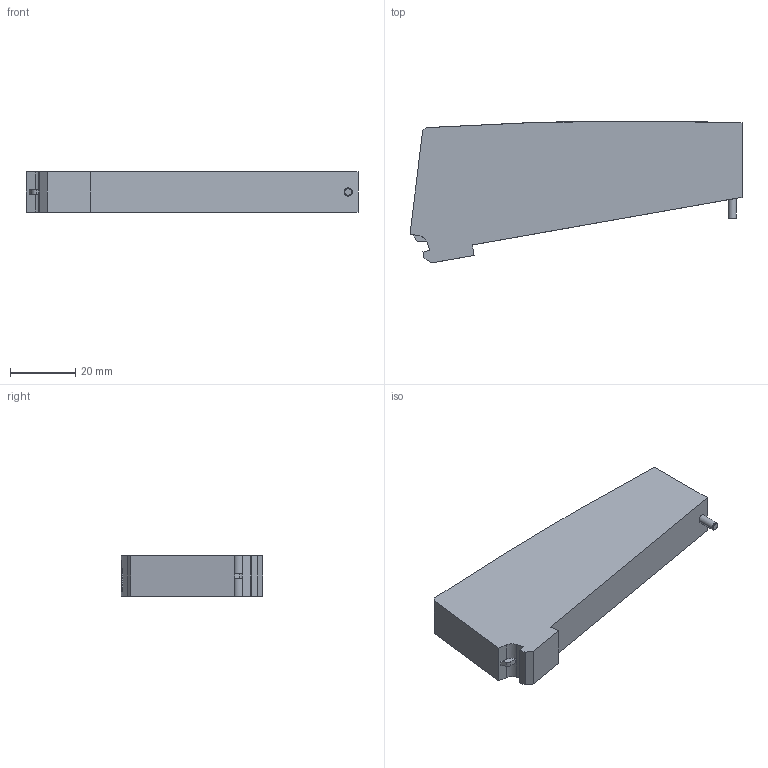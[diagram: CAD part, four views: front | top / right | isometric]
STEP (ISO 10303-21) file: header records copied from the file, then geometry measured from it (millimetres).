
FILE_DESCRIPTION((''),'2;1');
FILE_NAME('R422103006','2015-08-03T',('UAH1HC'),(''),'PRO/ENGINEER BY PARAMETRIC TECHNOLOGY CORPORATION, 2012421','PRO/ENGINEER BY PARAMETRIC TECHNOLOGY CORPORATION, 2012421','');
FILE_SCHEMA(('CONFIG_CONTROL_DESIGN','SHAPE_APPEARANCE_LAYERS_GROUPS'));
Length unit declared in the file: millimetre
Products named in the file (1): R422103006
Bounding box: 101.88 x 43.54 x 12.3 mm (x, y, z)
Volume: 38720.3 mm3; surface area: 10042 mm2
Topology: 1 solids, 1 shells, 79 faces, 202 edges, 132 vertices
Faces by surface type: plane 49, cylinder 18, torus 4, sphere 4, bspline 2, cone 2
Entity records: 2653 total; most frequent: CARTESIAN_POINT 625, DIRECTION 424, ORIENTED_EDGE 404, EDGE_CURVE 202, AXIS2_PLACEMENT_3D 154, VERTEX_POINT 132, VECTOR 116, LINE 116
